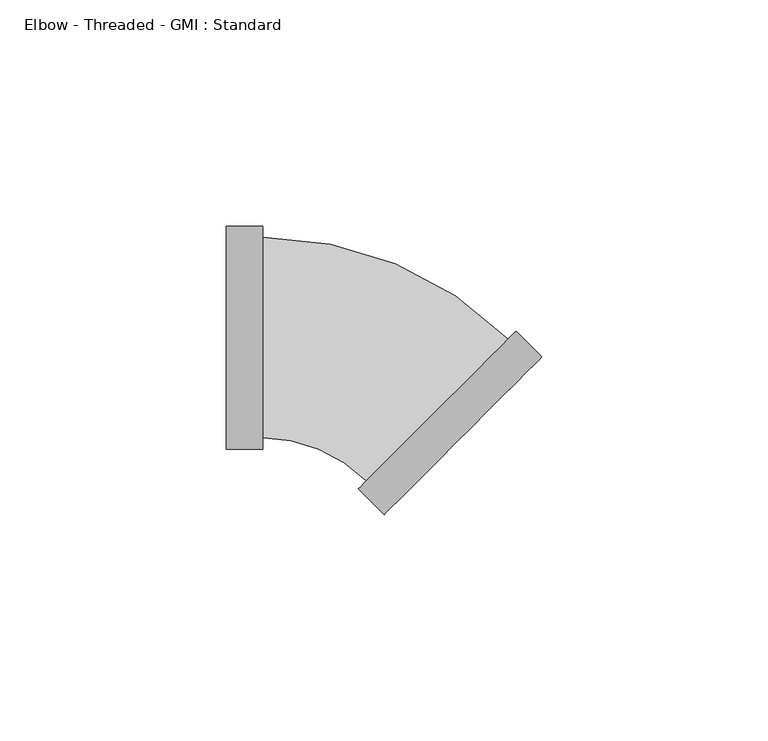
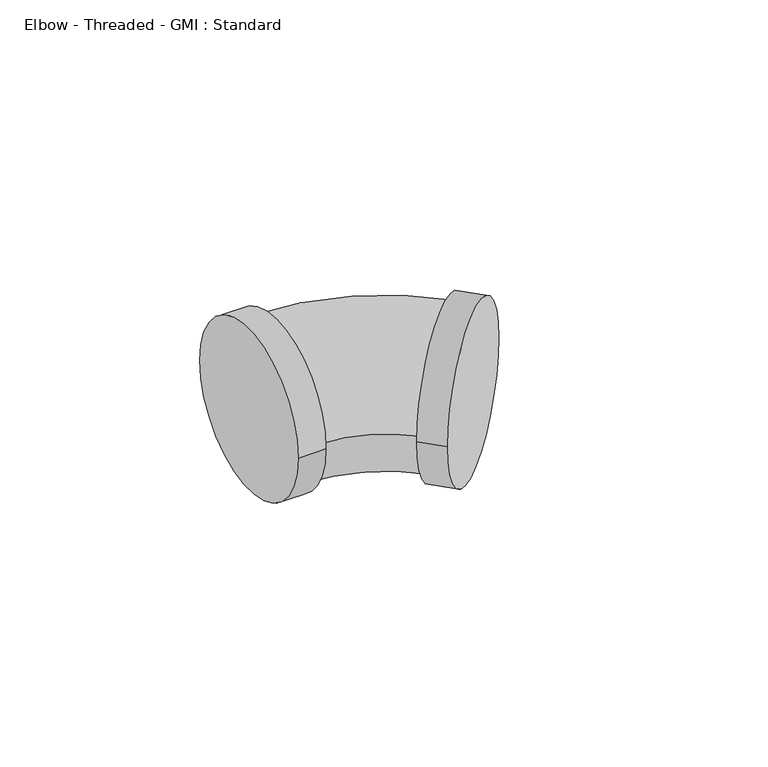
"""IFC4 building model written with IfcOpenShell, lengths in millimetres: pipe fitting geometry, Elbow - Threaded - GMI : Standard."""

from ifc_helpers import new_model, si_unit, point, frame, origin, place, context, project, spatial, circle_curve, ellipse_curve, trimmed, source, transform, mapped, element, save
from ifc_brep_helpers import plane_surface, cylinder_surface, revolved_surface, advanced_brep


def elbow_threaded_gmi_standard_bea309f0(model_context):
    return source(origin(), model_context, "Body", "AdvancedBrep", [
        advanced_brep(
        [(-30.6765625, 24.6511719, 0.0), (-30.6765625, -24.6511719, 0.0), (-22.6117187, 24.6511719, 0.0), (-22.6117187, -24.6511719, 0.0), (-22.6117187, 22.1625, 0.0), (-22.6117187, -22.1625, 0.0), (33.4199105, 1.4421111, 0.0), (-1.4421111, -33.4199105, 0.0), (0.3176456, -31.6601537, 0.0), (31.6601537, -0.3176456, 0.0), (39.1226162, -4.2605946, 0.0), (4.2605946, -39.1226162, 0.0)],
        [
            (0, 1, circle_curve(frame((-30.6765625, 0.0, 0.0), z_axis=(-1.0, 0.0, 0.0), x_axis=(0.0, -1.0, 0.0)), 24.6511719)),
            (1, 0, circle_curve(frame((-30.6765625, 0.0, 0.0), z_axis=(-1.0, 0.0, 0.0), x_axis=(0.0, -1.0, 0.0)), 24.6511719)),
            (2, 3, circle_curve(frame((-22.6117187, 0.0, 0.0), z_axis=(1.0, 0.0, 0.0), x_axis=(0.0, -1.0, 0.0)), 24.6511719)),
            (3, 2, circle_curve(frame((-22.6117187, 0.0, 0.0), z_axis=(1.0, 0.0, 0.0), x_axis=(0.0, -1.0, 0.0)), 24.6511719)),
            (4, 5, circle_curve(frame((-22.6117187, 0.0, 0.0), z_axis=(-1.0, 0.0, 0.0), x_axis=(0.0, -1.0, 0.0)), 22.1625)),
            (5, 4, circle_curve(frame((-22.6117187, 0.0, 0.0), z_axis=(-1.0, 0.0, 0.0), x_axis=(0.0, -1.0, 0.0)), 22.1625)),
            (1, 3),
            (2, 0),
            (6, 7, circle_curve(frame((15.9888997, -15.9888997, 0.0), z_axis=(-0.7071067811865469, 0.7071067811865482, 0.0), x_axis=(-0.7071067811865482, -0.7071067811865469, 0.0)), 24.6511719)),
            (7, 6, circle_curve(frame((15.9888997, -15.9888997, 0.0), z_axis=(-0.7071067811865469, 0.7071067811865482, 0.0), x_axis=(-0.7071067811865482, -0.7071067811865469, 0.0)), 24.6511719)),
            (8, 9, circle_curve(frame((15.9888997, -15.9888997, 0.0), z_axis=(0.7071067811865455, -0.7071067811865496, 0.0), x_axis=(-0.7071067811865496, -0.7071067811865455, 0.0)), 22.1625)),
            (9, 8, circle_curve(frame((15.9888997, -15.9888997, 0.0), z_axis=(0.7071067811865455, -0.7071067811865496, 0.0), x_axis=(-0.7071067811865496, -0.7071067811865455, 0.0)), 22.1625)),
            (10, 11, circle_curve(frame((21.6916054, -21.6916054, 0.0), z_axis=(0.7071067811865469, -0.7071067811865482, 0.0), x_axis=(-0.7071067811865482, -0.7071067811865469, 0.0)), 24.6511719)),
            (11, 10, circle_curve(frame((21.6916054, -21.6916054, 0.0), z_axis=(0.7071067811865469, -0.7071067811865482, 0.0), x_axis=(-0.7071067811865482, -0.7071067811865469, 0.0)), 24.6511719)),
            (7, 11),
            (10, 6),
            (9, 4, circle_curve(frame((-22.6117187, -54.5895181, 0.0), z_axis=(0.0, 0.0, 1.0), x_axis=(0.0, 1.0, 0.0)), 76.7520181)),
            (5, 8, circle_curve(frame((-22.6117187, -54.5895181, 0.0), z_axis=(0.0, 0.0, -1.0), x_axis=(0.0, 1.0, 0.0)), 32.4270181)),
        ],
        [
            plane_surface(frame((-30.6765625, 0.0, 0.0), z_axis=(-1.0, 0.0, 0.0), x_axis=(0.0, 0.0, 1.0))),
            plane_surface(frame((-22.6117187, 0.0, 0.0), z_axis=(1.0, 0.0, 0.0), x_axis=(0.0, 0.0, 1.0))),
            cylinder_surface(frame((-30.6765625, 0.0, 0.0), z_axis=(-1.0, 0.0, 0.0), x_axis=(0.0, -1.0, 0.0)), 24.6511719),
            plane_surface(frame((15.9888997, -15.9888997, 0.0), z_axis=(-0.7071067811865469, 0.7071067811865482, 0.0), x_axis=(0.0, 0.0, 1.0))),
            plane_surface(frame((21.6916054, -21.6916054, 0.0), z_axis=(0.7071067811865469, -0.7071067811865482, 0.0), x_axis=(0.0, 0.0, 1.0))),
            cylinder_surface(frame((15.9888997, -15.9888997, 0.0), z_axis=(-0.7071067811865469, 0.7071067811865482, 0.0), x_axis=(-0.7071067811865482, -0.7071067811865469, 0.0)), 24.6511719),
            revolved_surface(trimmed(ellipse_curve(frame((-22.6117187, 0.0, 0.0), z_axis=(1.0, 0.0, 0.0), x_axis=(0.0, -1.0, 0.0)), 22.1625, 22.1625), [point((-22.6117187, 22.1625, 0.0))], [point((-22.6117187, -22.1625, 0.0))], True, "CARTESIAN"), (-22.6117187, -54.5895181, 0.0), (0.0, 0.0, 1.0)),
            revolved_surface(trimmed(ellipse_curve(frame((-22.6117187, 0.0, 0.0), z_axis=(1.0, 0.0, 0.0), x_axis=(0.0, -1.0, 0.0)), 22.1625, 22.1625), [point((-22.6117187, -22.1625, 0.0))], [point((-22.6117187, 22.1625, 0.0))], True, "CARTESIAN"), (-22.6117187, -54.5895181, 0.0), (0.0, 0.0, 1.0)),
        ],
        [
            (0, [[1, 2]]),
            (1, [[3, 4], [5, 6]]),
            (2, [[7, -3, 8, -2]]),
            (2, [[-8, -4, -7, -1]]),
            (3, [[9, 10], [11, 12]]),
            (4, [[13, 14]]),
            (5, [[15, -13, 16, -10]]),
            (5, [[-16, -14, -15, -9]]),
            (6, [[-12, 17, -6, 18]]),
            (7, [[-5, -17, -11, -18]]),
        ],
    ),
    ])


if __name__ == "__main__":
    model = new_model("IFC4")
    model_context = context("Model", 3, world=origin())
    ifc_project = project(units=[si_unit("LENGTHUNIT", "METRE", prefix="MILLI")], contexts=[model_context])
    site = spatial("IfcSite", under=ifc_project)
    building = spatial("IfcBuilding", under=site)
    placement = place(None, origin())
    elbow_threaded_gmi_standard_shape = elbow_threaded_gmi_standard_bea309f0(model_context)
    element("IfcPipeFitting", 1, ObjectType="Elbow - Threaded - GMI : Standard", at=placement, inside=building, context=model_context, shape_type="MappedRepresentation", body=[
        mapped(elbow_threaded_gmi_standard_shape, transform((0.0, 0.0, 0.0), x_axis=(1.0, 0.0, 0.0), y_axis=(0.0, 1.0, 0.0), z_axis=(0.0, 0.0, 1.0))),
    ])
    save(model, "model.ifc")
